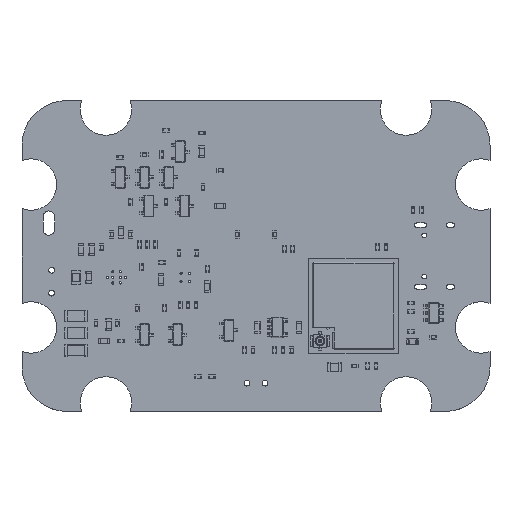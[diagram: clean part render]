
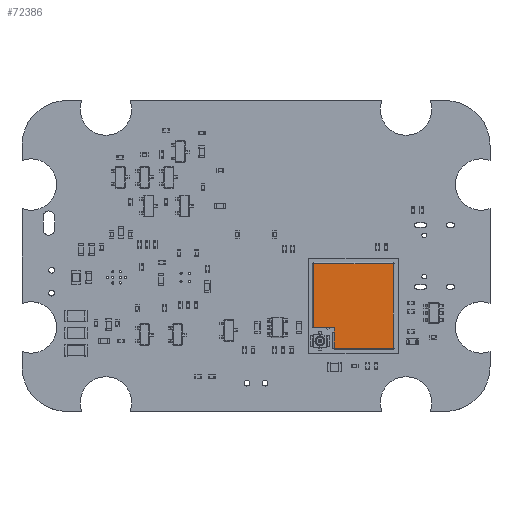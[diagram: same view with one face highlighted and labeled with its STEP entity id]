
A CAD part, top view. The second image highlights one B-rep face of the part: STEP entity #72386.
In plain terms, the highlighted planar face has unit normal (0, 0, 1) as drawn and (0, 1, 0) by its records, which use the part's own axes.
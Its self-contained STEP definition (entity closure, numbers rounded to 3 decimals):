
#71924 = VERTEX_POINT('',#71925);
#71925 = CARTESIAN_POINT('',(3.075,1.6,-10.55));
#71931 = EDGE_CURVE('',#71932,#71924,#71934,.T.);
#71932 = VERTEX_POINT('',#71933);
#71933 = CARTESIAN_POINT('',(3.075,1.6,-13.35));
#71934 = LINE('',#71935,#71936);
#71935 = CARTESIAN_POINT('',(3.075,1.6,0.));
#71936 = VECTOR('',#71937,1.);
#71937 = DIRECTION('',(0.,0.,1.));
#72386 = ADVANCED_FACE('',(#72387),#72454,.F.);
#72387 = FACE_BOUND('',#72388,.T.);
#72388 = EDGE_LOOP('',(#72389,#72390,#72399,#72407,#72416,#72424,#72432,
    #72440,#72448));
#72389 = ORIENTED_EDGE('',*,*,#71931,.T.);
#72390 = ORIENTED_EDGE('',*,*,#72391,.T.);
#72391 = EDGE_CURVE('',#71924,#72392,#72394,.T.);
#72392 = VERTEX_POINT('',#72393);
#72393 = CARTESIAN_POINT('',(2.975,1.6,-10.45));
#72394 = CIRCLE('',#72395,0.1);
#72395 = AXIS2_PLACEMENT_3D('',#72396,#72397,#72398);
#72396 = CARTESIAN_POINT('',(2.975,1.6,-10.55));
#72397 = DIRECTION('',(0.,-1.,0.));
#72398 = DIRECTION('',(0.,0.,-1.));
#72399 = ORIENTED_EDGE('',*,*,#72400,.F.);
#72400 = EDGE_CURVE('',#72401,#72392,#72403,.T.);
#72401 = VERTEX_POINT('',#72402);
#72402 = CARTESIAN_POINT('',(2.475,1.6,-10.45));
#72403 = LINE('',#72404,#72405);
#72404 = CARTESIAN_POINT('',(2.055,1.6,-10.45));
#72405 = VECTOR('',#72406,1.);
#72406 = DIRECTION('',(1.,0.,0.));
#72407 = ORIENTED_EDGE('',*,*,#72408,.T.);
#72408 = EDGE_CURVE('',#72401,#72409,#72411,.T.);
#72409 = VERTEX_POINT('',#72410);
#72410 = CARTESIAN_POINT('',(2.388,1.6,-10.5));
#72411 = CIRCLE('',#72412,0.1);
#72412 = AXIS2_PLACEMENT_3D('',#72413,#72414,#72415);
#72413 = CARTESIAN_POINT('',(2.475,1.6,-10.55));
#72414 = DIRECTION('',(0.,-1.,0.));
#72415 = DIRECTION('',(0.,0.,-1.));
#72416 = ORIENTED_EDGE('',*,*,#72417,.T.);
#72417 = EDGE_CURVE('',#72409,#72418,#72420,.T.);
#72418 = VERTEX_POINT('',#72419);
#72419 = CARTESIAN_POINT('',(0.2,1.6,-10.5));
#72420 = LINE('',#72421,#72422);
#72421 = CARTESIAN_POINT('',(0.,1.6,-10.5));
#72422 = VECTOR('',#72423,1.);
#72423 = DIRECTION('',(-1.,0.,0.));
#72424 = ORIENTED_EDGE('',*,*,#72425,.T.);
#72425 = EDGE_CURVE('',#72418,#72426,#72428,.T.);
#72426 = VERTEX_POINT('',#72427);
#72427 = CARTESIAN_POINT('',(0.2,1.6,-2.2));
#72428 = LINE('',#72429,#72430);
#72429 = CARTESIAN_POINT('',(0.2,1.6,0.));
#72430 = VECTOR('',#72431,1.);
#72431 = DIRECTION('',(0.,0.,1.));
#72432 = ORIENTED_EDGE('',*,*,#72433,.T.);
#72433 = EDGE_CURVE('',#72426,#72434,#72436,.T.);
#72434 = VERTEX_POINT('',#72435);
#72435 = CARTESIAN_POINT('',(12.05,1.6,-2.2));
#72436 = LINE('',#72437,#72438);
#72437 = CARTESIAN_POINT('',(0.,1.6,-2.2));
#72438 = VECTOR('',#72439,1.);
#72439 = DIRECTION('',(1.,0.,0.));
#72440 = ORIENTED_EDGE('',*,*,#72441,.T.);
#72441 = EDGE_CURVE('',#72434,#72442,#72444,.T.);
#72442 = VERTEX_POINT('',#72443);
#72443 = CARTESIAN_POINT('',(12.05,1.6,-13.35));
#72444 = LINE('',#72445,#72446);
#72445 = CARTESIAN_POINT('',(12.05,1.6,0.));
#72446 = VECTOR('',#72447,1.);
#72447 = DIRECTION('',(0.,0.,-1.));
#72448 = ORIENTED_EDGE('',*,*,#72449,.T.);
#72449 = EDGE_CURVE('',#72442,#71932,#72450,.T.);
#72450 = LINE('',#72451,#72452);
#72451 = CARTESIAN_POINT('',(0.,1.6,-13.35));
#72452 = VECTOR('',#72453,1.);
#72453 = DIRECTION('',(-1.,0.,0.));
#72454 = PLANE('',#72455);
#72455 = AXIS2_PLACEMENT_3D('',#72456,#72457,#72458);
#72456 = CARTESIAN_POINT('',(0.,1.6,0.));
#72457 = DIRECTION('',(0.,-1.,0.));
#72458 = DIRECTION('',(0.,0.,-1.));
